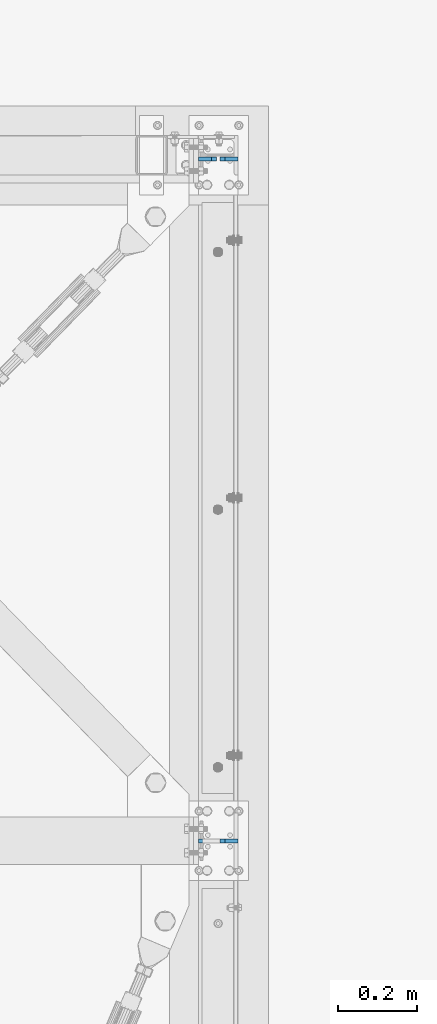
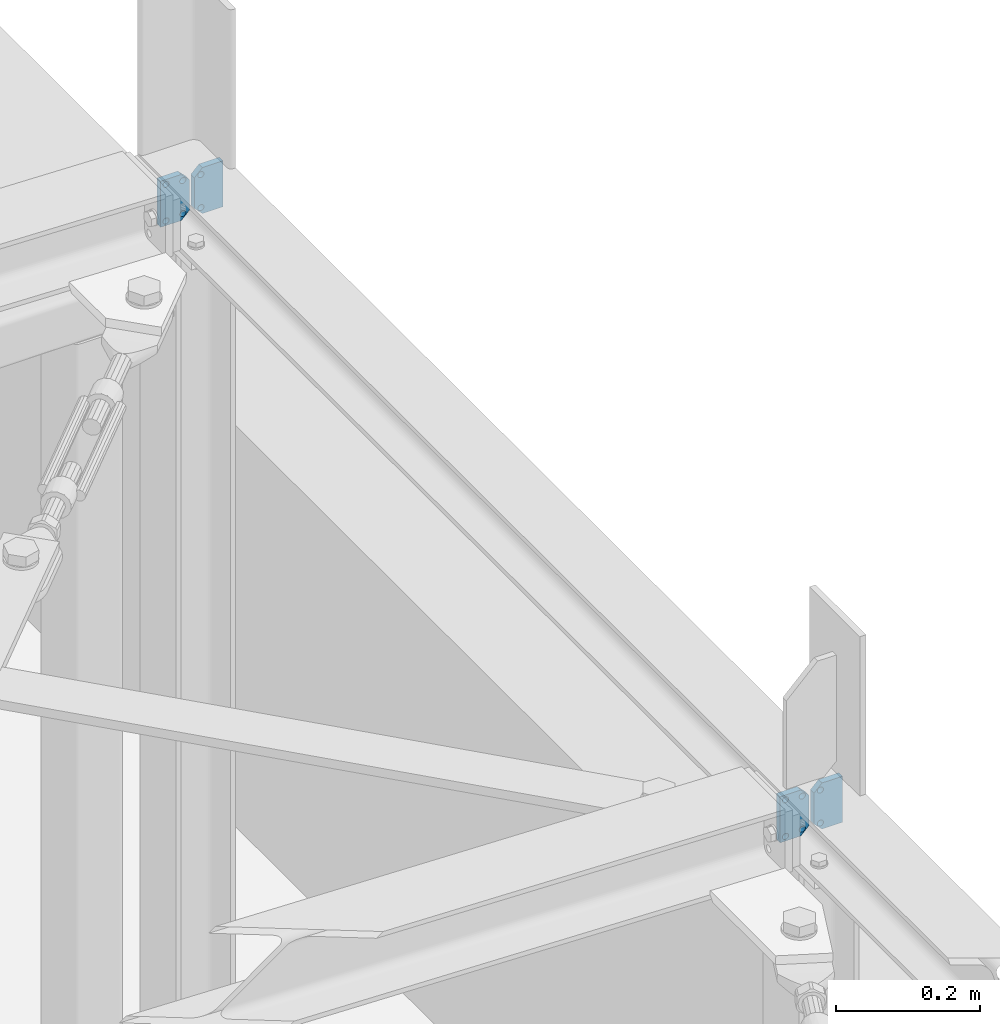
# One storey, part 76 of 476: 4 plates, 20 openings.
"""IFC2X3 building model written with IfcOpenShell, lengths in millimetres."""

import ifcopenshell
import ifcopenshell.guid

model = None  # the IFC model being written
_history = None  # IfcOwnerHistory: only IFC2X3 demands one
_inside = {}  # id of a spatial element -> (the spatial element, [elements in it])
_under = {}  # id of a project, library or spatial element -> (it, [spatial elements below it])
_declared = {}  # id of a project -> (the project, [libraries it declares])
_typed = {}  # id of a type object -> (the type object, [elements of that type])
_made_of = {}  # id of a material, layer set ... -> (it, [elements and type objects made of it])


def new_model(schema):
    """Start an empty IFC model of exactly this schema.

    Asked for "IFC4X3", IfcOpenShell would pick the latest addendum, in which some entities
    have other attributes; the version numbers below select the first issue.
    IFC2X3 requires an IfcOwnerHistory on every rooted entity: one is made here for all.
    """
    global model, _history
    if schema == "IFC4X3":
        model = ifcopenshell.file(schema_version=(4, 3, 0, 0))
    else:
        model = ifcopenshell.file(schema=schema)
    _inside.clear()
    _under.clear()
    _declared.clear()
    _typed.clear()
    _made_of.clear()
    _history = None
    if model.schema == "IFC2X3":
        org = make("IfcOrganization", Name="unknown")
        user = make(
            "IfcPersonAndOrganization",
            ThePerson=make("IfcPerson", FamilyName="unknown"),
            TheOrganization=org,
        )
        app = make(
            "IfcApplication",
            ApplicationDeveloper=org,
            Version="unknown",
            ApplicationFullName="unknown",
            ApplicationIdentifier="unknown",
        )
        _history = make(
            "IfcOwnerHistory",
            OwningUser=user,
            OwningApplication=app,
            ChangeAction="ADDED",
            CreationDate=0,
        )
    return model


def make(cls, **values):
    """One entity of the class cls with the attributes given. An attribute that is None is left unset."""
    return model.create_entity(
        cls, **{name: value for name, value in values.items() if value is not None}
    )


def entity(cls, *values):
    """Any entity or typed value of the class cls, its attributes in the order of the schema. None: left unset."""
    e = model.create_entity(cls)
    for i, value in enumerate(values):
        if value is not None:
            e[i] = value
    return e


def rooted(cls, **values):
    """An entity with a GlobalId (a new one), such as an element, a storey or a relation."""
    return make(cls, GlobalId=ifcopenshell.guid.new(), OwnerHistory=_history, **values)


def si_unit(unit_type, name, prefix=None):
    """IfcSIUnit, for example si_unit("LENGTHUNIT", "METRE", prefix="MILLI")."""
    return make("IfcSIUnit", UnitType=unit_type, Prefix=prefix, Name=name)


def converted_unit(unit_type, name, factor, base, dimensions=None, offset=None):
    """IfcConversionBasedUnit, such as the inch: factor (a typed value) times the base unit."""
    return make(
        "IfcConversionBasedUnit"
        if offset is None
        else "IfcConversionBasedUnitWithOffset",
        ConversionOffset=offset,
        Dimensions=None
        if dimensions is None
        else entity("IfcDimensionalExponents", *dimensions),
        UnitType=unit_type,
        Name=name,
        ConversionFactor=make(
            "IfcMeasureWithUnit", ValueComponent=factor, UnitComponent=base
        ),
    )


def assignment(units):
    """IfcUnitAssignment: the units of a project."""
    return None if units is None else make("IfcUnitAssignment", Units=units)


def point(xyz):
    """IfcCartesianPoint."""
    return None if xyz is None else make("IfcCartesianPoint", Coordinates=xyz)


def direction(xyz):
    """IfcDirection."""
    return None if xyz is None else make("IfcDirection", DirectionRatios=xyz)


def frame(location, z_axis=None, x_axis=None):
    """IfcAxis2Placement3D, a coordinate frame: its origin and axes. An axis left out is left unset."""
    return make(
        "IfcAxis2Placement3D",
        Location=point(location),
        Axis=direction(z_axis),
        RefDirection=direction(x_axis),
    )


def frame_2d(location, x_axis=None):
    """IfcAxis2Placement2D, a coordinate frame in the plane: its origin and x axis."""
    return make(
        "IfcAxis2Placement2D", Location=point(location), RefDirection=direction(x_axis)
    )


def origin():
    """The frame at (0, 0, 0) with its axes left unset."""
    return frame((0.0, 0.0, 0.0))


def origin_with_axes():
    """The frame at (0, 0, 0) with the z axis (0, 0, 1) and the x axis (1, 0, 0) written out."""
    return frame((0.0, 0.0, 0.0), z_axis=(0.0, 0.0, 1.0), x_axis=(1.0, 0.0, 0.0))


def origin_2d_with_axis():
    """The frame at (0, 0) in the plane with the x axis (1, 0) written out."""
    return frame_2d((0.0, 0.0), x_axis=(1.0, 0.0))


def place(relative_to, where):
    """IfcLocalPlacement: puts the frame where relative to a parent placement (None: the world)."""
    return make(
        "IfcLocalPlacement", PlacementRelTo=relative_to, RelativePlacement=where
    )


def context(
    kind, dimensions, precision=None, world=None, true_north=None, identifier=None
):
    """IfcGeometricRepresentationContext, for example the 3D "Model" context."""
    return make(
        "IfcGeometricRepresentationContext",
        ContextIdentifier=identifier,
        ContextType=kind,
        CoordinateSpaceDimension=dimensions,
        Precision=precision,
        WorldCoordinateSystem=world,
        TrueNorth=true_north,
    )


def project(units=None, contexts=None):
    """IfcProject with its units and contexts."""
    return rooted(
        "IfcProject",
        Name="project",
        RepresentationContexts=contexts,
        UnitsInContext=assignment(units),
    )


def spatial(cls, under=None, at=None, **own):
    """A site, building, storey or space (cls), placed at a placement, below another one or the project."""
    s = rooted(cls, ObjectPlacement=at, **own)
    if under is not None:
        _under.setdefault(under.id(), (under, []))[1].append(s)
    return s


def polyline(points):
    """IfcPolyline through the points."""
    return make("IfcPolyline", Points=[point(p) for p in points])


def circle_curve(where, radius):
    """IfcCircle in the frame where."""
    return make("IfcCircle", Position=where, Radius=radius)


def line_curve(start, along, magnitude):
    """IfcLine from a point along a vector."""
    return make(
        "IfcLine",
        Pnt=point(start),
        Dir=make("IfcVector", Orientation=direction(along), Magnitude=magnitude),
    )


def trimmed(basis, trim1, trim2, sense, master):
    """IfcTrimmedCurve: the piece of a basis curve between two trims."""
    return make(
        "IfcTrimmedCurve",
        BasisCurve=basis,
        Trim1=trim1,
        Trim2=trim2,
        SenseAgreement=sense,
        MasterRepresentation=master,
    )


def segment(curve, same_sense, transition):
    """IfcCompositeCurveSegment."""
    return make(
        "IfcCompositeCurveSegment",
        Transition=transition,
        SameSense=same_sense,
        ParentCurve=curve,
    )


def composite_curve(segments, self_intersect=None):
    """IfcCompositeCurve: segments joined end to end."""
    return make("IfcCompositeCurve", Segments=segments, SelfIntersect=self_intersect)


def profile(cls, at=None, kind="AREA", **sizes):
    """A parametric profile (cls). Its sizes go by their IFC names, for example OverallWidth=200.0."""
    return make(cls, ProfileType=kind, Position=at, **sizes)


def circle(**sizes):
    """IfcCircleProfileDef."""
    return profile("IfcCircleProfileDef", **sizes)


def outline(outer, holes=None, kind="AREA"):
    """IfcArbitraryClosedProfileDef: a profile drawn as a closed curve; with holes, ...WithVoids."""
    if holes is None:
        return make("IfcArbitraryClosedProfileDef", ProfileType=kind, OuterCurve=outer)
    return make(
        "IfcArbitraryProfileDefWithVoids",
        ProfileType=kind,
        OuterCurve=outer,
        InnerCurves=holes,
    )


def extrude(swept, where, along, depth):
    """IfcExtrudedAreaSolid: the profile swept, set in the frame where, extruded along a direction by depth."""
    return make(
        "IfcExtrudedAreaSolid",
        SweptArea=swept,
        Position=where,
        ExtrudedDirection=direction(along),
        Depth=depth,
    )


def shape(context_of_items, identifier, shape_type, items):
    """IfcShapeRepresentation: the items that make up one representation, for example the "Body"."""
    return make(
        "IfcShapeRepresentation",
        ContextOfItems=context_of_items,
        RepresentationIdentifier=identifier,
        RepresentationType=shape_type,
        Items=items,
    )


def material(Name=None, Category=None):
    """IfcMaterial."""
    return make("IfcMaterial", Name=Name, Category=Category)


def layer(
    of_material, thickness, ventilated=None, Name=None, Category=None, Priority=None
):
    """IfcMaterialLayer: one layer of a wall or slab, of a material (None: an air gap)."""
    return make(
        "IfcMaterialLayer",
        Material=of_material,
        LayerThickness=thickness,
        IsVentilated=ventilated,
        Name=Name,
        Category=Category,
        Priority=Priority,
    )


def layer_set(layers, Name=None):
    """IfcMaterialLayerSet."""
    return make("IfcMaterialLayerSet", MaterialLayers=layers, LayerSetName=Name)


def made_of(thing, what):
    """Note that an element or type object is made of a material, layer set ...; save() writes the relation."""
    if what is not None:
        _made_of.setdefault(what.id(), (what, []))[1].append(thing)
    return thing


def element(
    cls,
    number,
    at=None,
    inside=None,
    cuts=None,
    type_object=None,
    material=None,
    context=None,
    identifier="Body",
    shape_type=None,
    held_by="IfcProductDefinitionShape",
    body=None,
    shapes=None,
    **own,
):
    """One element of the class cls, such as IfcWall. Its Tag is "e" and its number.

    at: its placement. inside: the storey or other place that contains it. cuts: it is an
    opening in that element (IfcRelVoidsElement). A single representation is given by context,
    identifier, shape_type and body (its items); several are given by shapes. held_by: the class
    of the entity that holds the representations. save() writes the other relations.
    """
    e = rooted(cls, Tag="e%d" % number, ObjectPlacement=at, **own)
    if body is not None:
        shapes = [shape(context, identifier, shape_type, body)]
    if shapes is not None:
        e.Representation = make(held_by, Representations=shapes)
    if inside is not None:
        _inside.setdefault(inside.id(), (inside, []))[1].append(e)
    if cuts is not None:
        rooted(
            "IfcRelVoidsElement", RelatingBuildingElement=cuts, RelatedOpeningElement=e
        )
    if type_object is not None:
        _typed.setdefault(type_object.id(), (type_object, []))[1].append(e)
    return made_of(e, material)


def aggregate(whole, parts):
    """IfcRelAggregates: a whole, such as a stair, and the parts it consists of."""
    return rooted("IfcRelAggregates", RelatingObject=whole, RelatedObjects=parts)


def save(model, path):
    """Write the relations noted so far, then the file.

    IfcRelAggregates (storeys below a building ...), IfcRelContainedInSpatialStructure (elements
    in a storey), IfcRelDefinesByType, IfcRelAssociatesMaterial and IfcRelDeclares: one each for
    every whole, place, type object, material and project.
    """
    for whole, parts in _under.values():
        aggregate(whole, parts)
    for where, things in _inside.values():
        rooted(
            "IfcRelContainedInSpatialStructure",
            RelatedElements=things,
            RelatingStructure=where,
        )
    for kind, things in _typed.values():
        rooted("IfcRelDefinesByType", RelatedObjects=things, RelatingType=kind)
    for what, things in _made_of.values():
        rooted("IfcRelAssociatesMaterial", RelatedObjects=things, RelatingMaterial=what)
    for by, libraries in _declared.values():
        rooted("IfcRelDeclares", RelatingContext=by, RelatedDefinitions=libraries)
    model.write(path)


model = new_model("IFC2X3")

# Units and contexts
model_context = context("Model", 3, precision=1e-09, world=origin_with_axes())
ifc_project = project(units=[si_unit("LENGTHUNIT", "METRE", prefix="MILLI"), si_unit("AREAUNIT", "SQUARE_METRE"), si_unit("VOLUMEUNIT", "CUBIC_METRE"), converted_unit("PLANEANGLEUNIT", "DEGREE", entity("IfcPlaneAngleMeasure", 0.01745329), si_unit("PLANEANGLEUNIT", "RADIAN"), dimensions=[0, 0, 0, 0, 0, 0, 0])], contexts=[model_context])

# Site, building, storey
site_placement = place(None, origin_with_axes())
site = spatial("IfcSite", under=ifc_project, at=site_placement, Name="mKR Teilneubau & Sanierung BA1 - Ostfildern", CompositionType="ELEMENT")
building_placement = place(site_placement, origin_with_axes())
building = spatial("IfcBuilding", under=site, at=building_placement, Name="Struktur 1", CompositionType="ELEMENT")
storey_placement = place(building_placement, origin_with_axes())
storey = spatial("IfcBuildingStorey", under=building, at=storey_placement, Name="Default Storey", CompositionType="ELEMENT", Elevation=0.0)

# Plate, openings
ifc_material = material(Name="S235JR")
ifc_layer = layer(ifc_material, 10.0)
ifc_layer_set = layer_set([ifc_layer], Name="S235JR")
plate_1_placement = place(None, frame((23687.608764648, -5953.67387897, 3057.0), z_axis=(0.0, 1.0, 0.0), x_axis=(1.0, 0.0, 0.0)))
plate_1 = element("IfcPlate", 1, at=plate_1_placement, inside=storey, material=ifc_layer_set, Name="Stiffener#2", ObjectType="Stiffener#2", context=model_context, shape_type="SweptSolid", body=[
    extrude(outline(polyline([(0.0, 0.0), (46.0, 0.0), (46.0, 78.0), (0.0, 78.0), (0.0, 0.0)])), origin_with_axes(), (0.0, 0.0, 1.0), 10.0),
])
opening_1_placement = place(plate_1_placement, frame((0.0, 0.0, -0.01), z_axis=(0.0, 0.0, 1.0), x_axis=(1.0, 0.0, 0.0)))
element("IfcOpeningElement", 2, at=opening_1_placement, cuts=plate_1, ObjectType="Opening", context=model_context, shape_type="SweptSolid", body=[
    extrude(outline(composite_curve([segment(trimmed(line_curve((0.0, 0.0), (1.0, 0.0), 13.0), [point((0.0, 0.0))], [point((13.0, 0.0))], True, "CARTESIAN"), True, "CONTINUOUS"), segment(trimmed(circle_curve(frame_2d((13.0, 13.0), x_axis=(-1.0, 0.0)), 13.0), [point((13.0, 0.0))], [point((0.0, 13.0))], False, "CARTESIAN"), True, "CONTINUOUS"), segment(trimmed(line_curve((0.0, 13.0), (0.0, -1.0), 13.0), [point((0.0, 13.0))], [point((0.0, 0.0))], True, "CARTESIAN"), True, "CONTINUOUS")], self_intersect=False)), origin(), (0.0, 0.0, 1.0), 10.02),
])
opening_2_placement = place(plate_1_placement, frame((0.0, 0.0, -0.01), z_axis=(0.0, 0.0, 1.0), x_axis=(1.0, 0.0, 0.0)))
element("IfcOpeningElement", 3, at=opening_2_placement, cuts=plate_1, ObjectType="Opening", context=model_context, shape_type="SweptSolid", body=[
    extrude(outline(composite_curve([segment(trimmed(line_curve((0.0, 78.0), (0.0, -1.0), 13.0), [point((0.0, 78.0))], [point((0.0, 65.0))], True, "CARTESIAN"), True, "CONTINUOUS"), segment(trimmed(circle_curve(frame_2d((13.0, 65.0), x_axis=(-1.0, 0.0)), 13.0), [point((0.0, 65.0))], [point((13.0, 78.0))], False, "CARTESIAN"), True, "CONTINUOUS"), segment(trimmed(line_curve((13.0, 78.0), (-1.0, 0.0), 13.0), [point((13.0, 78.0))], [point((0.0, 78.0))], True, "CARTESIAN"), True, "CONTINUOUS")], self_intersect=False)), origin(), (0.0, 0.0, 1.0), 10.02),
])
opening_3_placement = place(plate_1_placement, frame((10.5, 67.0, -0.5), z_axis=(0.0, 0.0, 1.0), x_axis=(0.0, 1.0, 0.0)))
element("IfcOpeningElement", 4, at=opening_3_placement, cuts=plate_1, ObjectType="Opening", context=model_context, shape_type="SweptSolid", body=[
    extrude(circle(Radius=5.001, at=origin_2d_with_axis()), origin(), (0.0, 0.0, 1.0), 11.0),
])
opening_4_placement = place(plate_1_placement, frame((10.5, 11.0, -0.5), z_axis=(0.0, 0.0, 1.0), x_axis=(0.0, 1.0, 0.0)))
element("IfcOpeningElement", 5, at=opening_4_placement, cuts=plate_1, ObjectType="Opening", context=model_context, shape_type="SweptSolid", body=[
    extrude(circle(Radius=5.001, at=origin_2d_with_axis()), origin(), (0.0, 0.0, 1.0), 11.0),
])

plate_2_placement = place(None, frame((23679.608764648, -5943.67387897, 3057.0), z_axis=(0.0, -1.0, 0.0), x_axis=(-1.0, 0.0, 0.0)))
plate_2 = element("IfcPlate", 6, at=plate_2_placement, inside=storey, material=ifc_layer_set, Name="Stiffener#1", ObjectType="Stiffener#1", context=model_context, shape_type="SweptSolid", body=[
    extrude(outline(polyline([(0.0, 0.0), (46.0, 0.0), (46.0, 78.0), (0.0, 78.0), (0.0, 0.0)])), origin_with_axes(), (0.0, 0.0, 1.0), 10.0),
])
opening_5_placement = place(plate_2_placement, frame((0.0, 0.0, -0.01), z_axis=(0.0, 0.0, 1.0), x_axis=(1.0, 0.0, 0.0)))
element("IfcOpeningElement", 7, at=opening_5_placement, cuts=plate_2, ObjectType="Opening", context=model_context, shape_type="SweptSolid", body=[
    extrude(outline(composite_curve([segment(trimmed(line_curve((0.0, 0.0), (1.0, 0.0), 13.0), [point((0.0, 0.0))], [point((13.0, 0.0))], True, "CARTESIAN"), True, "CONTINUOUS"), segment(trimmed(circle_curve(frame_2d((13.0, 13.0), x_axis=(-1.0, 0.0)), 13.0), [point((13.0, 0.0))], [point((0.0, 13.0))], False, "CARTESIAN"), True, "CONTINUOUS"), segment(trimmed(line_curve((0.0, 13.0), (0.0, -1.0), 13.0), [point((0.0, 13.0))], [point((0.0, 0.0))], True, "CARTESIAN"), True, "CONTINUOUS")], self_intersect=False)), origin(), (0.0, 0.0, 1.0), 10.02),
])
opening_6_placement = place(plate_2_placement, frame((0.0, 0.0, -0.01), z_axis=(0.0, 0.0, 1.0), x_axis=(1.0, 0.0, 0.0)))
element("IfcOpeningElement", 8, at=opening_6_placement, cuts=plate_2, ObjectType="Opening", context=model_context, shape_type="SweptSolid", body=[
    extrude(outline(composite_curve([segment(trimmed(line_curve((0.0, 78.0), (0.0, -1.0), 13.0), [point((0.0, 78.0))], [point((0.0, 65.0))], True, "CARTESIAN"), True, "CONTINUOUS"), segment(trimmed(circle_curve(frame_2d((13.0, 65.0), x_axis=(-1.0, 0.0)), 13.0), [point((0.0, 65.0))], [point((13.0, 78.0))], False, "CARTESIAN"), True, "CONTINUOUS"), segment(trimmed(line_curve((13.0, 78.0), (-1.0, 0.0), 13.0), [point((13.0, 78.0))], [point((0.0, 78.0))], True, "CARTESIAN"), True, "CONTINUOUS")], self_intersect=False)), origin(), (0.0, 0.0, 1.0), 10.02),
])
opening_7_placement = place(plate_2_placement, frame((10.5, 11.0, 10.5), z_axis=(0.0, 0.0, -1.0), x_axis=(0.0, 1.0, 0.0)))
element("IfcOpeningElement", 9, at=opening_7_placement, cuts=plate_2, ObjectType="Opening", context=model_context, shape_type="SweptSolid", body=[
    extrude(circle(Radius=5.001, at=origin_2d_with_axis()), origin(), (0.0, 0.0, 1.0), 11.0),
])
opening_8_placement = place(plate_2_placement, frame((40.5, 11.0, 10.5), z_axis=(0.0, 0.0, -1.0), x_axis=(0.0, 1.0, 0.0)))
element("IfcOpeningElement", 10, at=opening_8_placement, cuts=plate_2, ObjectType="Opening", context=model_context, shape_type="SweptSolid", body=[
    extrude(circle(Radius=5.001, at=frame_2d((-3.0, -3.0), x_axis=(1.0, 0.0))), origin(), (0.0, 0.0, 1.0), 11.0),
])
opening_9_placement = place(plate_2_placement, frame((37.5, 75.001, 10.5), z_axis=(0.0, 0.0, 1.0), x_axis=(1.0, 0.0, 0.0)))
element("IfcOpeningElement", 11, at=opening_9_placement, cuts=plate_2, ObjectType="Opening", context=model_context, shape_type="SweptSolid", body=[
    extrude(circle(Radius=5.001, at=frame_2d((0.0, -5.001), x_axis=(1.0, 0.0))), origin(), (0.0, 0.0, -1.0), 11.0),
])
opening_10_placement = place(plate_2_placement, frame((10.5, 67.0, 10.5), z_axis=(0.0, 0.0, -1.0), x_axis=(0.0, 1.0, 0.0)))
element("IfcOpeningElement", 12, at=opening_10_placement, cuts=plate_2, ObjectType="Opening", context=model_context, shape_type="SweptSolid", body=[
    extrude(circle(Radius=5.001, at=origin_2d_with_axis()), origin(), (0.0, 0.0, 1.0), 11.0),
])

plate_3_placement = place(None, frame((23687.608764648, -4233.67387897, 3057.0), z_axis=(0.0, 1.0, 0.0), x_axis=(1.0, 0.0, 0.0)))
plate_3 = element("IfcPlate", 13, at=plate_3_placement, inside=storey, material=ifc_layer_set, Name="Stiffener#2", ObjectType="Stiffener#2", context=model_context, shape_type="SweptSolid", body=[
    extrude(outline(polyline([(0.0, 0.0), (46.0, 0.0), (46.0, 78.0), (0.0, 78.0), (0.0, 0.0)])), origin_with_axes(), (0.0, 0.0, 1.0), 10.0),
])
opening_11_placement = place(plate_3_placement, frame((0.0, 0.0, -0.01), z_axis=(0.0, 0.0, 1.0), x_axis=(1.0, 0.0, 0.0)))
element("IfcOpeningElement", 14, at=opening_11_placement, cuts=plate_3, ObjectType="Opening", context=model_context, shape_type="SweptSolid", body=[
    extrude(outline(composite_curve([segment(trimmed(line_curve((0.0, 0.0), (1.0, 0.0), 13.0), [point((0.0, 0.0))], [point((13.0, 0.0))], True, "CARTESIAN"), True, "CONTINUOUS"), segment(trimmed(circle_curve(frame_2d((13.0, 13.0), x_axis=(-1.0, 0.0)), 13.0), [point((13.0, 0.0))], [point((0.0, 13.0))], False, "CARTESIAN"), True, "CONTINUOUS"), segment(trimmed(line_curve((0.0, 13.0), (0.0, -1.0), 13.0), [point((0.0, 13.0))], [point((0.0, 0.0))], True, "CARTESIAN"), True, "CONTINUOUS")], self_intersect=False)), origin(), (0.0, 0.0, 1.0), 10.02),
])
opening_12_placement = place(plate_3_placement, frame((0.0, 0.0, -0.01), z_axis=(0.0, 0.0, 1.0), x_axis=(1.0, 0.0, 0.0)))
element("IfcOpeningElement", 15, at=opening_12_placement, cuts=plate_3, ObjectType="Opening", context=model_context, shape_type="SweptSolid", body=[
    extrude(outline(composite_curve([segment(trimmed(line_curve((0.0, 78.0), (0.0, -1.0), 13.0), [point((0.0, 78.0))], [point((0.0, 65.0))], True, "CARTESIAN"), True, "CONTINUOUS"), segment(trimmed(circle_curve(frame_2d((13.0, 65.0), x_axis=(-1.0, 0.0)), 13.0), [point((0.0, 65.0))], [point((13.0, 78.0))], False, "CARTESIAN"), True, "CONTINUOUS"), segment(trimmed(line_curve((13.0, 78.0), (-1.0, 0.0), 13.0), [point((13.0, 78.0))], [point((0.0, 78.0))], True, "CARTESIAN"), True, "CONTINUOUS")], self_intersect=False)), origin(), (0.0, 0.0, 1.0), 10.02),
])
opening_13_placement = place(plate_3_placement, frame((10.5, 67.0, -0.5), z_axis=(0.0, 0.0, 1.0), x_axis=(0.0, 1.0, 0.0)))
element("IfcOpeningElement", 16, at=opening_13_placement, cuts=plate_3, ObjectType="Opening", context=model_context, shape_type="SweptSolid", body=[
    extrude(circle(Radius=5.001, at=origin_2d_with_axis()), origin(), (0.0, 0.0, 1.0), 11.0),
])
opening_14_placement = place(plate_3_placement, frame((10.5, 11.0, -0.5), z_axis=(0.0, 0.0, 1.0), x_axis=(0.0, 1.0, 0.0)))
element("IfcOpeningElement", 17, at=opening_14_placement, cuts=plate_3, ObjectType="Opening", context=model_context, shape_type="SweptSolid", body=[
    extrude(circle(Radius=5.001, at=origin_2d_with_axis()), origin(), (0.0, 0.0, 1.0), 11.0),
])

plate_4_placement = place(None, frame((23679.608764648, -4223.67387897, 3057.0), z_axis=(0.0, -1.0, 0.0), x_axis=(-1.0, 0.0, 0.0)))
plate_4 = element("IfcPlate", 18, at=plate_4_placement, inside=storey, material=ifc_layer_set, Name="Stiffener#1", ObjectType="Stiffener#1", context=model_context, shape_type="SweptSolid", body=[
    extrude(outline(polyline([(0.0, 0.0), (46.0, 0.0), (46.0, 78.0), (0.0, 78.0), (0.0, 0.0)])), origin_with_axes(), (0.0, 0.0, 1.0), 10.0),
])
opening_15_placement = place(plate_4_placement, frame((0.0, 0.0, -0.01), z_axis=(0.0, 0.0, 1.0), x_axis=(1.0, 0.0, 0.0)))
element("IfcOpeningElement", 19, at=opening_15_placement, cuts=plate_4, ObjectType="Opening", context=model_context, shape_type="SweptSolid", body=[
    extrude(outline(composite_curve([segment(trimmed(line_curve((0.0, 0.0), (1.0, 0.0), 13.0), [point((0.0, 0.0))], [point((13.0, 0.0))], True, "CARTESIAN"), True, "CONTINUOUS"), segment(trimmed(circle_curve(frame_2d((13.0, 13.0), x_axis=(-1.0, 0.0)), 13.0), [point((13.0, 0.0))], [point((0.0, 13.0))], False, "CARTESIAN"), True, "CONTINUOUS"), segment(trimmed(line_curve((0.0, 13.0), (0.0, -1.0), 13.0), [point((0.0, 13.0))], [point((0.0, 0.0))], True, "CARTESIAN"), True, "CONTINUOUS")], self_intersect=False)), origin(), (0.0, 0.0, 1.0), 10.02),
])
opening_16_placement = place(plate_4_placement, frame((0.0, 0.0, -0.01), z_axis=(0.0, 0.0, 1.0), x_axis=(1.0, 0.0, 0.0)))
element("IfcOpeningElement", 20, at=opening_16_placement, cuts=plate_4, ObjectType="Opening", context=model_context, shape_type="SweptSolid", body=[
    extrude(outline(composite_curve([segment(trimmed(line_curve((0.0, 78.0), (0.0, -1.0), 13.0), [point((0.0, 78.0))], [point((0.0, 65.0))], True, "CARTESIAN"), True, "CONTINUOUS"), segment(trimmed(circle_curve(frame_2d((13.0, 65.0), x_axis=(-1.0, 0.0)), 13.0), [point((0.0, 65.0))], [point((13.0, 78.0))], False, "CARTESIAN"), True, "CONTINUOUS"), segment(trimmed(line_curve((13.0, 78.0), (-1.0, 0.0), 13.0), [point((13.0, 78.0))], [point((0.0, 78.0))], True, "CARTESIAN"), True, "CONTINUOUS")], self_intersect=False)), origin(), (0.0, 0.0, 1.0), 10.02),
])
opening_17_placement = place(plate_4_placement, frame((10.5, 11.0, 10.5), z_axis=(0.0, 0.0, -1.0), x_axis=(0.0, 1.0, 0.0)))
element("IfcOpeningElement", 21, at=opening_17_placement, cuts=plate_4, ObjectType="Opening", context=model_context, shape_type="SweptSolid", body=[
    extrude(circle(Radius=5.001, at=origin_2d_with_axis()), origin(), (0.0, 0.0, 1.0), 11.0),
])
opening_18_placement = place(plate_4_placement, frame((40.5, 11.0, 10.5), z_axis=(0.0, 0.0, -1.0), x_axis=(0.0, 1.0, 0.0)))
element("IfcOpeningElement", 22, at=opening_18_placement, cuts=plate_4, ObjectType="Opening", context=model_context, shape_type="SweptSolid", body=[
    extrude(circle(Radius=5.001, at=frame_2d((-3.0, -3.0), x_axis=(1.0, 0.0))), origin(), (0.0, 0.0, 1.0), 11.0),
])
opening_19_placement = place(plate_4_placement, frame((37.5, 75.001, 10.5), z_axis=(0.0, 0.0, 1.0), x_axis=(1.0, 0.0, 0.0)))
element("IfcOpeningElement", 23, at=opening_19_placement, cuts=plate_4, ObjectType="Opening", context=model_context, shape_type="SweptSolid", body=[
    extrude(circle(Radius=5.001, at=frame_2d((0.0, -5.001), x_axis=(1.0, 0.0))), origin(), (0.0, 0.0, -1.0), 11.0),
])
opening_20_placement = place(plate_4_placement, frame((10.5, 67.0, 10.5), z_axis=(0.0, 0.0, -1.0), x_axis=(0.0, 1.0, 0.0)))
element("IfcOpeningElement", 24, at=opening_20_placement, cuts=plate_4, ObjectType="Opening", context=model_context, shape_type="SweptSolid", body=[
    extrude(circle(Radius=5.001, at=origin_2d_with_axis()), origin(), (0.0, 0.0, 1.0), 11.0),
])

save(model, "model.ifc")
